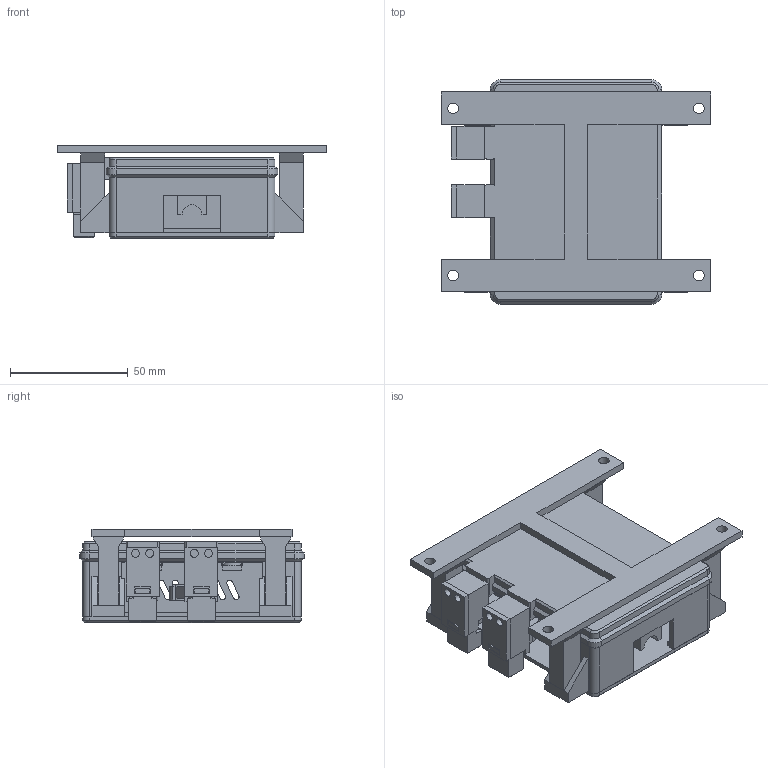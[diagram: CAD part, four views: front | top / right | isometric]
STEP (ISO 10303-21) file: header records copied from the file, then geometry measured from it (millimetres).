
FILE_DESCRIPTION(('Open CASCADE Model'),'2;1');
FILE_NAME('Open CASCADE Shape Model','2026-10-19T19:27:44',('Author'),( 'Open CASCADE'),'Open CASCADE STEP processor 7.9','build123d', 'Unknown');
FILE_SCHEMA(('AUTOMOTIVE_DESIGN { 1 0 10303 214 1 1 1 1 }'));
Length unit declared in the file: millimetre
Products named in the file (16): COMPOUND
Assembly tree (15 placements, depth 2):
  COMPOUND
    COMPOUND
    COMPOUND
    COMPOUND
    COMPOUND
    COMPOUND
    COMPOUND
    COMPOUND
    COMPOUND
    COMPOUND
    COMPOUND
    COMPOUND
    COMPOUND
    COMPOUND
    COMPOUND
    COMPOUND
Bounding box: 114.5 x 95.4 x 39.6 mm (x, y, z)
Volume: 95106.4 mm3; surface area: 74326.5 mm2
Topology: 15 solids, 15 shells, 661 faces, 1698 edges, 1107 vertices
Faces by surface type: plane 522, cylinder 123, cone 16
Full cylindrical faces by diameter (mm): 3.4 x22, 4 x18, 4.5 x4
Entity records: 41672 total; most frequent: CARTESIAN_POINT 8452, DIRECTION 5650, LINE 3636, VECTOR 3636, ORIENTED_EDGE 3396, PCURVE 3396, DEFINITIONAL_REPRESENTATION 3396, EDGE_CURVE 1698
